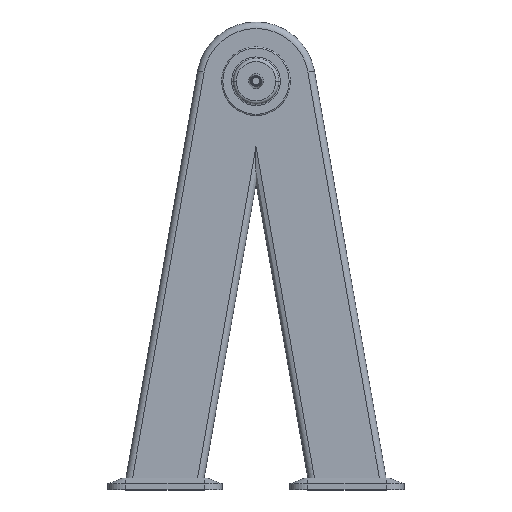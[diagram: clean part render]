
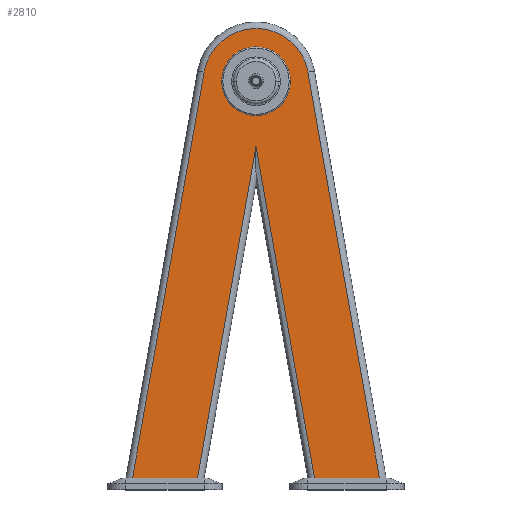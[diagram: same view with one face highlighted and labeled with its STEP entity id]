
A CAD part, top view. The second image highlights one B-rep face of the part: STEP entity #2810.
In plain terms, the highlighted planar face has unit normal (0, 0, 1).
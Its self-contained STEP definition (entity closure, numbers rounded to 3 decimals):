
#14 = CARTESIAN_POINT ( 'NONE',  ( -208.512, 20., 63. ) ) ;
#38 = DIRECTION ( 'NONE',  ( 1., 0., 0. ) ) ;
#60 = CARTESIAN_POINT ( 'NONE',  ( 208.512, 20., 63. ) ) ;
#115 = ORIENTED_EDGE ( 'NONE', *, *, #2096, .T. ) ;
#215 = ORIENTED_EDGE ( 'NONE', *, *, #2237, .F. ) ;
#216 = CARTESIAN_POINT ( 'NONE',  ( 58., 690., 63. ) ) ;
#243 = CARTESIAN_POINT ( 'NONE',  ( 0., 690., 63. ) ) ;
#401 = LINE ( 'NONE', #2098, #1509 ) ;
#523 = DIRECTION ( 'NONE',  ( -0.174, -0.985, 0. ) ) ;
#556 = DIRECTION ( 'NONE',  ( 0.174, 0.985, 0. ) ) ;
#581 = DIRECTION ( 'NONE',  ( 0., 0., 1. ) ) ;
#583 = VERTEX_POINT ( 'NONE', #1356 ) ;
#679 = CIRCLE ( 'NONE', #1446, 89. ) ;
#681 = AXIS2_PLACEMENT_3D ( 'NONE', #243, #2043, #705 ) ;
#705 = DIRECTION ( 'NONE',  ( 1., 0., 0. ) ) ;
#759 = DIRECTION ( 'NONE',  ( 0.174, -0.985, 0. ) ) ;
#781 = ORIENTED_EDGE ( 'NONE', *, *, #2275, .F. ) ;
#816 = ORIENTED_EDGE ( 'NONE', *, *, #2753, .F. ) ;
#854 = AXIS2_PLACEMENT_3D ( 'NONE', #2664, #1430, #38 ) ;
#872 = DIRECTION ( 'NONE',  ( -0.174, 0.985, 0. ) ) ;
#878 = FACE_BOUND ( 'NONE', #1566, .T. ) ;
#936 = CARTESIAN_POINT ( 'NONE',  ( 0., 20., 63. ) ) ;
#1009 = ORIENTED_EDGE ( 'NONE', *, *, #2501, .T. ) ;
#1042 = LINE ( 'NONE', #1234, #2074 ) ;
#1123 = VERTEX_POINT ( 'NONE', #60 ) ;
#1138 = VERTEX_POINT ( 'NONE', #14 ) ;
#1140 = DIRECTION ( 'NONE',  ( 0., 0., 1. ) ) ;
#1183 = CIRCLE ( 'NONE', #1526, 58. ) ;
#1216 = LINE ( 'NONE', #1266, #2803 ) ;
#1234 = CARTESIAN_POINT ( 'NONE',  ( -213.433, -7.91, 63. ) ) ;
#1266 = CARTESIAN_POINT ( 'NONE',  ( -10.833, 519.147, 63. ) ) ;
#1356 = CARTESIAN_POINT ( 'NONE',  ( 98.846, 20., 63. ) ) ;
#1399 = LINE ( 'NONE', #2573, #2448 ) ;
#1412 = VERTEX_POINT ( 'NONE', #2143 ) ;
#1430 = DIRECTION ( 'NONE',  ( 0., 0., 1. ) ) ;
#1446 = AXIS2_PLACEMENT_3D ( 'NONE', #1934, #581, #2146 ) ;
#1458 = VERTEX_POINT ( 'NONE', #2748 ) ;
#1499 = FACE_OUTER_BOUND ( 'NONE', #2047, .T. ) ;
#1509 = VECTOR ( 'NONE', #759, 1000. ) ;
#1526 = AXIS2_PLACEMENT_3D ( 'NONE', #2420, #1140, #2611 ) ;
#1527 = LINE ( 'NONE', #1582, #2064 ) ;
#1566 = EDGE_LOOP ( 'NONE', ( #816, #781 ) ) ;
#1582 = CARTESIAN_POINT ( 'NONE',  ( 87.648, 705.455, 63. ) ) ;
#1731 = LINE ( 'NONE', #936, #2377 ) ;
#1763 = ORIENTED_EDGE ( 'NONE', *, *, #2370, .T. ) ;
#1819 = EDGE_CURVE ( 'NONE', #1863, #1138, #1042, .T. ) ;
#1838 = PLANE ( 'NONE',  #681 ) ;
#1863 = VERTEX_POINT ( 'NONE', #2113 ) ;
#1893 = VERTEX_POINT ( 'NONE', #2521 ) ;
#1934 = CARTESIAN_POINT ( 'NONE',  ( 0., 690., 63. ) ) ;
#1950 = EDGE_CURVE ( 'NONE', #1412, #1863, #679, .T. ) ;
#2043 = DIRECTION ( 'NONE',  ( 0., 0., 1. ) ) ;
#2047 = EDGE_LOOP ( 'NONE', ( #2399, #1009, #1763, #215, #115, #2800, #2099 ) ) ;
#2064 = VECTOR ( 'NONE', #872, 1000. ) ;
#2074 = VECTOR ( 'NONE', #523, 1000. ) ;
#2096 = EDGE_CURVE ( 'NONE', #1123, #1412, #1527, .T. ) ;
#2098 = CARTESIAN_POINT ( 'NONE',  ( 104.958, -14.664, 63. ) ) ;
#2099 = ORIENTED_EDGE ( 'NONE', *, *, #1819, .T. ) ;
#2113 = CARTESIAN_POINT ( 'NONE',  ( -87.648, 705.455, 63. ) ) ;
#2121 = CARTESIAN_POINT ( 'NONE',  ( -58., 690., 63. ) ) ;
#2143 = CARTESIAN_POINT ( 'NONE',  ( 87.648, 705.455, 63. ) ) ;
#2146 = DIRECTION ( 'NONE',  ( 1., 0., 0. ) ) ;
#2188 = VERTEX_POINT ( 'NONE', #216 ) ;
#2237 = EDGE_CURVE ( 'NONE', #1123, #583, #1731, .T. ) ;
#2255 = DIRECTION ( 'NONE',  ( -1., 0., 0. ) ) ;
#2275 = EDGE_CURVE ( 'NONE', #2188, #2487, #2777, .T. ) ;
#2370 = EDGE_CURVE ( 'NONE', #1458, #583, #401, .T. ) ;
#2377 = VECTOR ( 'NONE', #2255, 1000. ) ;
#2399 = ORIENTED_EDGE ( 'NONE', *, *, #2631, .F. ) ;
#2420 = CARTESIAN_POINT ( 'NONE',  ( 0., 690., 63. ) ) ;
#2448 = VECTOR ( 'NONE', #2760, 1000. ) ;
#2487 = VERTEX_POINT ( 'NONE', #2121 ) ;
#2501 = EDGE_CURVE ( 'NONE', #1893, #1458, #1216, .T. ) ;
#2521 = CARTESIAN_POINT ( 'NONE',  ( -98.846, 20., 63. ) ) ;
#2573 = CARTESIAN_POINT ( 'NONE',  ( 0., 20., 63. ) ) ;
#2611 = DIRECTION ( 'NONE',  ( 1., 0., 0. ) ) ;
#2631 = EDGE_CURVE ( 'NONE', #1893, #1138, #1399, .T. ) ;
#2664 = CARTESIAN_POINT ( 'NONE',  ( 0., 690., 63. ) ) ;
#2748 = CARTESIAN_POINT ( 'NONE',  ( 0., 580.583, 63. ) ) ;
#2753 = EDGE_CURVE ( 'NONE', #2487, #2188, #1183, .T. ) ;
#2760 = DIRECTION ( 'NONE',  ( -1., 0., 0. ) ) ;
#2777 = CIRCLE ( 'NONE', #854, 58. ) ;
#2800 = ORIENTED_EDGE ( 'NONE', *, *, #1950, .T. ) ;
#2803 = VECTOR ( 'NONE', #556, 1000. ) ;
#2810 = ADVANCED_FACE ( 'NONE', ( #878, #1499 ), #1838, .T. ) ;
